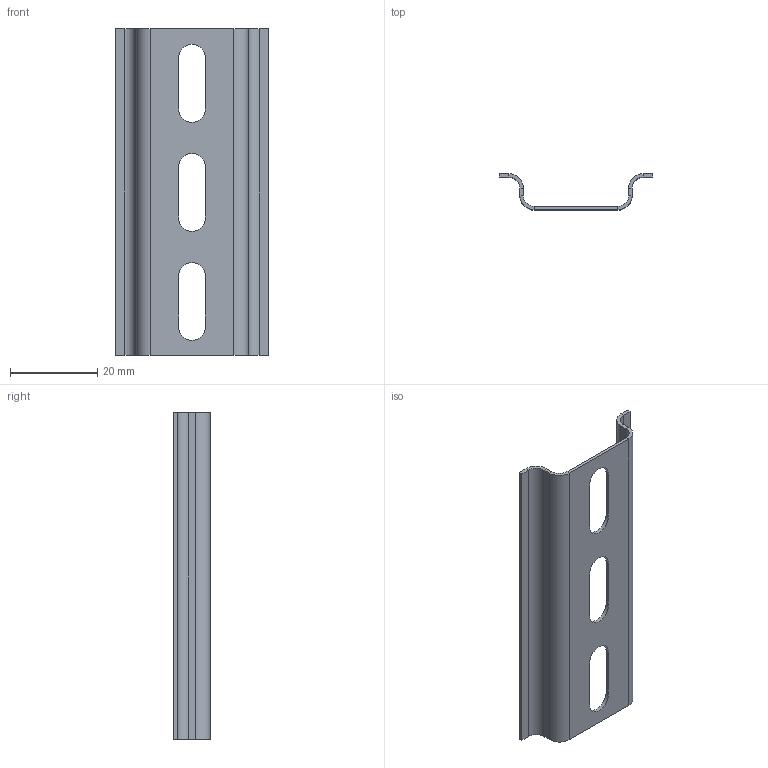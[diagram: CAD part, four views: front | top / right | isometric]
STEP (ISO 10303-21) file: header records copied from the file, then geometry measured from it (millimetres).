
FILE_DESCRIPTION (( 'STEP AP214' ), '1' );
FILE_NAME ('DIN-ðåéêà 75ìì õ 0,8 ìì.STEP', '2025-10-22T12:01:10', ( '' ), ( '' ), 'SwSTEP 2.0', 'SolidWorks 2018', '' );
FILE_SCHEMA (( 'AUTOMOTIVE_DESIGN' ));
Length unit declared in the file: millimetre
Products named in the file (1): DIN-ðåéêà 75ìì õ 0,8 ìì
Bounding box: 35.2 x 8.3 x 75 mm (x, y, z)
Volume: 2468.6 mm3; surface area: 6466.5 mm2
Topology: 1 solids, 1 shells, 53 faces, 121 edges, 70 vertices
Faces by surface type: plane 36, cylinder 17
Entity records: 1499 total; most frequent: DIRECTION 263, CARTESIAN_POINT 245, ORIENTED_EDGE 242, EDGE_CURVE 121, AXIS2_PLACEMENT_3D 88, VECTOR 87, LINE 87, VERTEX_POINT 70
